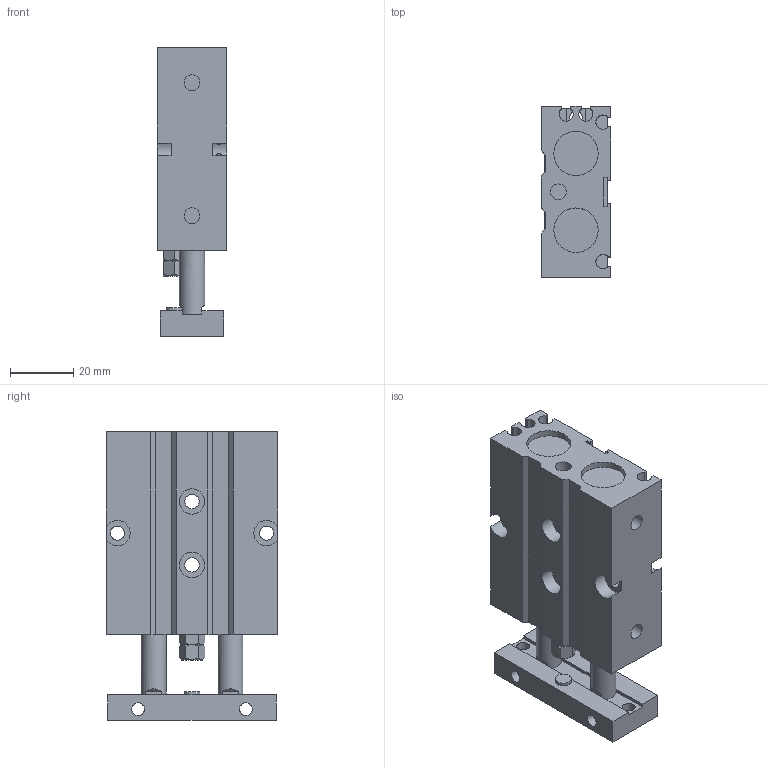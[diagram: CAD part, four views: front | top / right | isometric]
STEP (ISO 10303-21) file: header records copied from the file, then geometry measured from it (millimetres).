
FILE_DESCRIPTION((''),'2;1');
FILE_NAME('I:\3D電子目錄\氣缸\TD\TD16\TD16\TD16x10.stp','2007-08-06T09:39:48',('Administrator'),(''),'Autodesk Inventor 2008','Autodesk Inventor 2008','');
FILE_SCHEMA(('AUTOMOTIVE_DESIGN { 1 0 10303 214 1 1 1 1 }'));
Length unit declared in the file: millimetre
Products named in the file (1): TD16X10
Bounding box: 22 x 54 x 91 mm (x, y, z)
Volume: 75231.5 mm3; surface area: 22159.2 mm2
Topology: 1 solids, 3 shells, 175 faces, 459 edges, 300 vertices
Faces by surface type: plane 114, cylinder 40, bspline 12, cone 7, torus 2
Full cylindrical faces by diameter (mm): 4 x4, 4.5 x4, 5 x6, 6 x2, 7 x2, 8 x4, 14 x4
Entity records: 5739 total; most frequent: CARTESIAN_POINT 1615, ORIENTED_EDGE 816, DIRECTION 804, EDGE_CURVE 408, VERTEX_POINT 288, VECTOR 272, LINE 272, AXIS2_PLACEMENT_3D 266
